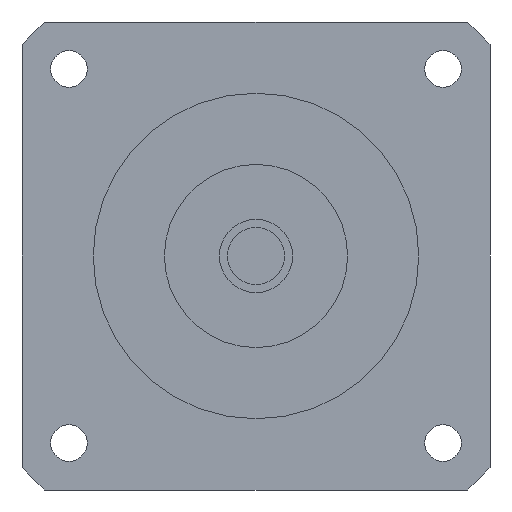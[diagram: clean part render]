
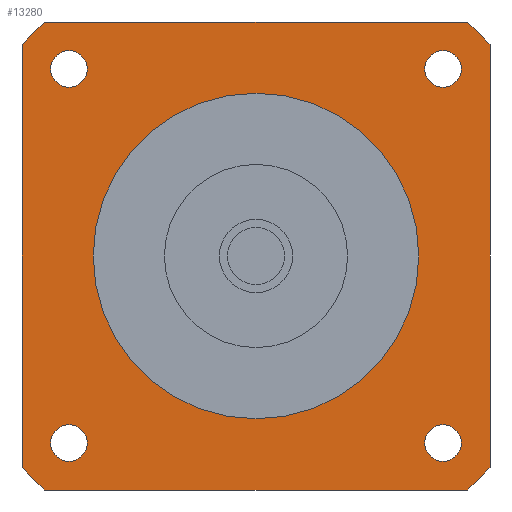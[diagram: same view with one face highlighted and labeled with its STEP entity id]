
A CAD part, left-side view. The second image highlights one B-rep face of the part: STEP entity #13280.
In plain terms, the highlighted planar face has unit normal (-1, 0, 0) as drawn and (0, 0, -1) by its records, which use the part's own axes.
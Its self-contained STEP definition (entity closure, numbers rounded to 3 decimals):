
#8700=CARTESIAN_POINT('',(-51.962,57.5,-43.2));
#8710=VERTEX_POINT('',#8700);
#8870=CARTESIAN_POINT('',(-57.5,51.962,-43.2));
#8880=VERTEX_POINT('',#8870);
#8910=CARTESIAN_POINT('',(0.,0.,
-43.2));
#8920=DIRECTION('',(0.,0.,-1.));
#8930=DIRECTION('',(-1.,0.,0.));
#8940=AXIS2_PLACEMENT_3D('',#8910,#8920,#8930);
#8950=CIRCLE('',#8940,77.5);
#8960=EDGE_CURVE('',#8880,#8710,#8950,.T.);
#9120=CARTESIAN_POINT('',(57.5,-51.962,-43.2));
#9130=VERTEX_POINT('',#9120);
#9160=CARTESIAN_POINT('',(0.,0.,
-43.2));
#9170=DIRECTION('',(0.,0.,-1.));
#9180=DIRECTION('',(-1.,0.,0.));
#9190=AXIS2_PLACEMENT_3D('',#9160,#9170,#9180);
#9200=CIRCLE('',#9190,77.5);
#9210=CARTESIAN_POINT('',(51.962,-57.5,-43.2));
#9220=VERTEX_POINT('',#9210);
#9230=EDGE_CURVE('',#9130,#9220,#9200,.T.);
#11850=CARTESIAN_POINT('',(50.462,-45.962,-43.2));
#11860=VERTEX_POINT('',#11850);
#11890=CARTESIAN_POINT('',(45.962,-45.962,-43.2));
#11900=DIRECTION('',(0.,0.,-1.));
#11910=DIRECTION('',(1.,0.,0.));
#11920=AXIS2_PLACEMENT_3D('',#11890,#11900,#11910);
#11930=CIRCLE('',#11920,4.5);
#11940=CARTESIAN_POINT('',(41.462,-45.962,-43.2));
#11950=VERTEX_POINT('',#11940);
#11960=EDGE_CURVE('',#11950,#11860,#11930,.T.);
#12080=CARTESIAN_POINT('',(0.,0.,
-43.2));
#12090=DIRECTION('',(0.,0.,-1.));
#12100=DIRECTION('',(1.,0.,0.));
#12110=AXIS2_PLACEMENT_3D('',#12080,#12090,#12100);
#12120=PLANE('',#12110);
#12130=CARTESIAN_POINT('',(45.962,45.962,-43.2));
#12140=DIRECTION('',(0.,0.,-1.));
#12150=DIRECTION('',(1.,0.,0.));
#12160=AXIS2_PLACEMENT_3D('',#12130,#12140,#12150);
#12170=CIRCLE('',#12160,4.5);
#12180=CARTESIAN_POINT('',(50.462,45.962,-43.2));
#12190=VERTEX_POINT('',#12180);
#12200=CARTESIAN_POINT('',(41.462,45.962,-43.2));
#12210=VERTEX_POINT('',#12200);
#12220=EDGE_CURVE('',#12190,#12210,#12170,.T.);
#12230=ORIENTED_EDGE('',*,*,#12220,.F.);
#12240=EDGE_CURVE('',#12210,#12190,#12170,.T.);
#12250=ORIENTED_EDGE('',*,*,#12240,.F.);
#12260=EDGE_LOOP('',(#12250,#12230));
#12270=FACE_BOUND('',#12260,.T.);
#12280=CARTESIAN_POINT('',(-45.962,45.962,-43.2));
#12290=DIRECTION('',(0.,0.,-1.));
#12300=DIRECTION('',(1.,0.,0.));
#12310=AXIS2_PLACEMENT_3D('',#12280,#12290,#12300);
#12320=CIRCLE('',#12310,4.5);
#12330=CARTESIAN_POINT('',(-41.462,45.962,-43.2));
#12340=VERTEX_POINT('',#12330);
#12350=CARTESIAN_POINT('',(-50.462,45.962,-43.2));
#12360=VERTEX_POINT('',#12350);
#12370=EDGE_CURVE('',#12340,#12360,#12320,.T.);
#12380=ORIENTED_EDGE('',*,*,#12370,.F.);
#12390=EDGE_CURVE('',#12360,#12340,#12320,.T.);
#12400=ORIENTED_EDGE('',*,*,#12390,.F.);
#12410=EDGE_LOOP('',(#12400,#12380));
#12420=FACE_BOUND('',#12410,.T.);
#12430=CARTESIAN_POINT('',(0.,0.,
-43.2));
#12440=DIRECTION('',(0.,0.,1.));
#12450=DIRECTION('',(1.,0.,0.));
#12460=AXIS2_PLACEMENT_3D('',#12430,#12440,#12450);
#12470=CIRCLE('',#12460,40.);
#12480=CARTESIAN_POINT('',(40.,0.,-43.2));
#12490=VERTEX_POINT('',#12480);
#12500=CARTESIAN_POINT('',(-40.,0.,-43.2));
#12510=VERTEX_POINT('',#12500);
#12520=EDGE_CURVE('',#12490,#12510,#12470,.T.);
#12530=ORIENTED_EDGE('',*,*,#12520,.T.);
#12540=EDGE_CURVE('',#12510,#12490,#12470,.T.);
#12550=ORIENTED_EDGE('',*,*,#12540,.T.);
#12560=EDGE_LOOP('',(#12550,#12530));
#12570=FACE_BOUND('',#12560,.T.);
#12580=CARTESIAN_POINT('',(-45.962,-45.962,-43.2));
#12590=DIRECTION('',(0.,0.,-1.));
#12600=DIRECTION('',(1.,0.,0.));
#12610=AXIS2_PLACEMENT_3D('',#12580,#12590,#12600);
#12620=CIRCLE('',#12610,4.5);
#12630=CARTESIAN_POINT('',(-41.462,-45.962,-43.2));
#12640=VERTEX_POINT('',#12630);
#12650=CARTESIAN_POINT('',(-50.462,-45.962,-43.2));
#12660=VERTEX_POINT('',#12650);
#12670=EDGE_CURVE('',#12640,#12660,#12620,.T.);
#12680=ORIENTED_EDGE('',*,*,#12670,.F.);
#12690=EDGE_CURVE('',#12660,#12640,#12620,.T.);
#12700=ORIENTED_EDGE('',*,*,#12690,.F.);
#12710=EDGE_LOOP('',(#12700,#12680));
#12720=FACE_BOUND('',#12710,.T.);
#12730=EDGE_CURVE('',#11860,#11950,#11930,.T.);
#12740=ORIENTED_EDGE('',*,*,#12730,.F.);
#12750=ORIENTED_EDGE('',*,*,#11960,.F.);
#12760=EDGE_LOOP('',(#12750,#12740));
#12770=FACE_BOUND('',#12760,.T.);
#12780=CARTESIAN_POINT('',(57.5,-57.5,-43.2));
#12790=DIRECTION('',(-1.,0.,0.));
#12800=VECTOR('',#12790,1000.);
#12810=LINE('',#12780,#12800);
#12820=CARTESIAN_POINT('',(-51.962,-57.5,-43.2));
#12830=VERTEX_POINT('',#12820);
#12840=EDGE_CURVE('',#9220,#12830,#12810,.T.);
#12850=ORIENTED_EDGE('',*,*,#12840,.T.);
#12860=ORIENTED_EDGE('',*,*,#9230,.T.);
#12870=CARTESIAN_POINT('',(57.5,57.5,-43.2));
#12880=DIRECTION('',(0.,-1.,0.));
#12890=VECTOR('',#12880,1000.);
#12900=LINE('',#12870,#12890);
#12910=CARTESIAN_POINT('',(57.5,51.962,-43.2));
#12920=VERTEX_POINT('',#12910);
#12930=EDGE_CURVE('',#12920,#9130,#12900,.T.);
#12940=ORIENTED_EDGE('',*,*,#12930,.T.);
#12950=CARTESIAN_POINT('',(0.,0.,
-43.2));
#12960=DIRECTION('',(0.,0.,-1.));
#12970=DIRECTION('',(-1.,0.,0.));
#12980=AXIS2_PLACEMENT_3D('',#12950,#12960,#12970);
#12990=CIRCLE('',#12980,77.5);
#13000=CARTESIAN_POINT('',(51.962,57.5,-43.2));
#13010=VERTEX_POINT('',#13000);
#13020=EDGE_CURVE('',#13010,#12920,#12990,.T.);
#13030=ORIENTED_EDGE('',*,*,#13020,.T.);
#13040=CARTESIAN_POINT('',(-57.5,57.5,-43.2));
#13050=DIRECTION('',(1.,0.,0.));
#13060=VECTOR('',#13050,1000.);
#13070=LINE('',#13040,#13060);
#13080=EDGE_CURVE('',#8710,#13010,#13070,.T.);
#13090=ORIENTED_EDGE('',*,*,#13080,.T.);
#13100=ORIENTED_EDGE('',*,*,#8960,.T.);
#13110=CARTESIAN_POINT('',(-57.5,-57.5,-43.2));
#13120=DIRECTION('',(0.,1.,0.));
#13130=VECTOR('',#13120,1000.);
#13140=LINE('',#13110,#13130);
#13150=CARTESIAN_POINT('',(-57.5,-51.962,-43.2));
#13160=VERTEX_POINT('',#13150);
#13170=EDGE_CURVE('',#13160,#8880,#13140,.T.);
#13180=ORIENTED_EDGE('',*,*,#13170,.T.);
#13190=CARTESIAN_POINT('',(0.,0.,
-43.2));
#13200=DIRECTION('',(0.,0.,-1.));
#13210=DIRECTION('',(-1.,0.,0.));
#13220=AXIS2_PLACEMENT_3D('',#13190,#13200,#13210);
#13230=CIRCLE('',#13220,77.5);
#13240=EDGE_CURVE('',#12830,#13160,#13230,.T.);
#13250=ORIENTED_EDGE('',*,*,#13240,.T.);
#13260=EDGE_LOOP('',(#13250,#13180,#13100,#13090,#13030,#12940,#12860,
#12850));
#13270=FACE_OUTER_BOUND('',#13260,.T.);
#13280=ADVANCED_FACE('',(#12270,#12420,#12570,#12720,#12770,#13270),
#12120,.T.);
